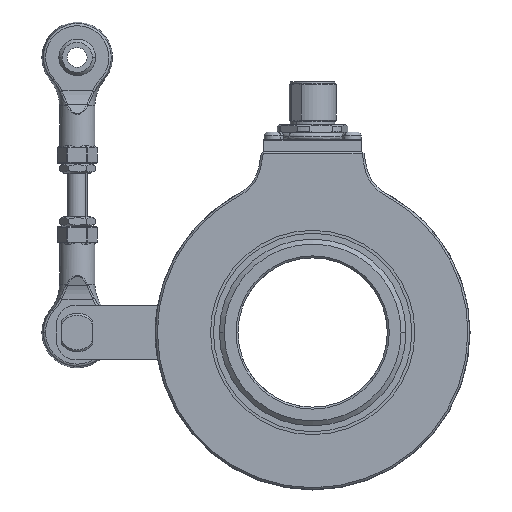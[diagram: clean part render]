
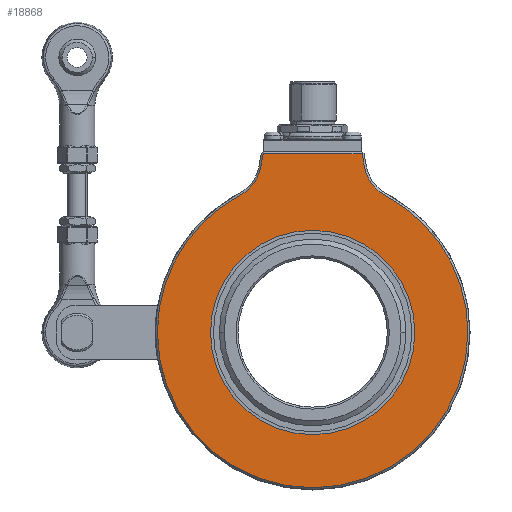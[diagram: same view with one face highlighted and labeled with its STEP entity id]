
A CAD part, left-side view. The second image highlights one B-rep face of the part: STEP entity #18868.
In plain terms, the highlighted planar face has unit normal (-1, 0, 0).
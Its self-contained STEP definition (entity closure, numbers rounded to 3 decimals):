
#5 = ORIENTED_EDGE ( 'NONE', *, *, #11899, .T. ) ;
#154 = AXIS2_PLACEMENT_3D ( 'NONE', #11411, #9774, #15289 ) ;
#248 = EDGE_CURVE ( 'NONE', #14934, #7061, #10986, .T. ) ;
#289 = CARTESIAN_POINT ( 'NONE',  ( -26., 12.58, 45.5 ) ) ;
#579 = DIRECTION ( 'NONE',  ( -1., 0., 0. ) ) ;
#594 = LINE ( 'NONE', #24076, #15639 ) ;
#816 = ORIENTED_EDGE ( 'NONE', *, *, #5890, .T. ) ;
#1000 = ORIENTED_EDGE ( 'NONE', *, *, #1582, .T. ) ;
#1412 = DIRECTION ( 'NONE',  ( 0., -1., 0. ) ) ;
#1582 = EDGE_CURVE ( 'NONE', #16825, #2304, #13455, .T. ) ;
#1631 = FACE_BOUND ( 'NONE', #5254, .T. ) ;
#1652 = CARTESIAN_POINT ( 'NONE',  ( -26., 0., 0. ) ) ;
#1778 = DIRECTION ( 'NONE',  ( -1., 0., 0. ) ) ;
#1907 = VERTEX_POINT ( 'NONE', #22365 ) ;
#2049 = LINE ( 'NONE', #16869, #13098 ) ;
#2178 = DIRECTION ( 'NONE',  ( 1., 0., 0. ) ) ;
#2261 = CIRCLE ( 'NONE', #3875, 26. ) ;
#2264 = DIRECTION ( 'NONE',  ( 0., 1., 0. ) ) ;
#2304 = VERTEX_POINT ( 'NONE', #15120 ) ;
#2642 = LINE ( 'NONE', #11791, #21324 ) ;
#3538 = ORIENTED_EDGE ( 'NONE', *, *, #18473, .T. ) ;
#3608 = ORIENTED_EDGE ( 'NONE', *, *, #17302, .T. ) ;
#3875 = AXIS2_PLACEMENT_3D ( 'NONE', #8881, #11002, #20425 ) ;
#4686 = CARTESIAN_POINT ( 'NONE',  ( -26., -39.5, 0. ) ) ;
#4936 = ORIENTED_EDGE ( 'NONE', *, *, #248, .T. ) ;
#5254 = EDGE_LOOP ( 'NONE', ( #17216, #5 ) ) ;
#5492 = CIRCLE ( 'NONE', #8690, 26. ) ;
#5890 = EDGE_CURVE ( 'NONE', #7061, #17307, #12121, .T. ) ;
#6235 = EDGE_CURVE ( 'NONE', #2304, #20252, #24594, .T. ) ;
#7061 = VERTEX_POINT ( 'NONE', #9273 ) ;
#7367 = CARTESIAN_POINT ( 'NONE',  ( -26., -26., 0. ) ) ;
#7627 = DIRECTION ( 'NONE',  ( 0., -1., 0. ) ) ;
#7766 = CARTESIAN_POINT ( 'NONE',  ( -26., 0., 0. ) ) ;
#8690 = AXIS2_PLACEMENT_3D ( 'NONE', #7766, #17206, #2264 ) ;
#8881 = CARTESIAN_POINT ( 'NONE',  ( -26., 0., 0. ) ) ;
#9258 = VERTEX_POINT ( 'NONE', #21808 ) ;
#9273 = CARTESIAN_POINT ( 'NONE',  ( -26., 18.551, 34.873 ) ) ;
#9730 = AXIS2_PLACEMENT_3D ( 'NONE', #17766, #579, #10371 ) ;
#9774 = DIRECTION ( 'NONE',  ( 1., 0., 0. ) ) ;
#10371 = DIRECTION ( 'NONE',  ( 0., -1., 0. ) ) ;
#10986 = CIRCLE ( 'NONE', #154, 10.5 ) ;
#11002 = DIRECTION ( 'NONE',  ( 1., 0., 0. ) ) ;
#11204 = CARTESIAN_POINT ( 'NONE',  ( -26., 0., 0. ) ) ;
#11411 = CARTESIAN_POINT ( 'NONE',  ( -26., 23.482, 44.143 ) ) ;
#11710 = CARTESIAN_POINT ( 'NONE',  ( -26., -23.482, 44.143 ) ) ;
#11791 = CARTESIAN_POINT ( 'NONE',  ( -26., 40., 45.5 ) ) ;
#11899 = EDGE_CURVE ( 'NONE', #13402, #9258, #5492, .T. ) ;
#12121 = CIRCLE ( 'NONE', #9730, 39.5 ) ;
#13098 = VECTOR ( 'NONE', #20632, 1000. ) ;
#13112 = EDGE_CURVE ( 'NONE', #17307, #16825, #17553, .T. ) ;
#13291 = PLANE ( 'NONE',  #23764 ) ;
#13402 = VERTEX_POINT ( 'NONE', #7367 ) ;
#13455 = CIRCLE ( 'NONE', #21879, 39.5 ) ;
#13552 = DIRECTION ( 'NONE',  ( -1., 0., 0. ) ) ;
#13610 = ORIENTED_EDGE ( 'NONE', *, *, #6235, .T. ) ;
#14875 = CARTESIAN_POINT ( 'NONE',  ( -26., -13.141, 42.32 ) ) ;
#14934 = VERTEX_POINT ( 'NONE', #17125 ) ;
#15120 = CARTESIAN_POINT ( 'NONE',  ( -26., -18.551, 34.873 ) ) ;
#15289 = DIRECTION ( 'NONE',  ( 0., -1., 0. ) ) ;
#15408 = DIRECTION ( 'NONE',  ( -1., 0., 0. ) ) ;
#15599 = DIRECTION ( 'NONE',  ( 0., -1., 0. ) ) ;
#15639 = VECTOR ( 'NONE', #21814, 1000. ) ;
#15937 = AXIS2_PLACEMENT_3D ( 'NONE', #1652, #13552, #22758 ) ;
#16825 = VERTEX_POINT ( 'NONE', #4686 ) ;
#16869 = CARTESIAN_POINT ( 'NONE',  ( -26., 21.188, -3.317 ) ) ;
#17125 = CARTESIAN_POINT ( 'NONE',  ( -26., 13.141, 42.32 ) ) ;
#17206 = DIRECTION ( 'NONE',  ( 1., 0., 0. ) ) ;
#17216 = ORIENTED_EDGE ( 'NONE', *, *, #23164, .T. ) ;
#17302 = EDGE_CURVE ( 'NONE', #20252, #1907, #594, .T. ) ;
#17307 = VERTEX_POINT ( 'NONE', #22061 ) ;
#17553 = CIRCLE ( 'NONE', #15937, 39.5 ) ;
#17766 = CARTESIAN_POINT ( 'NONE',  ( -26., 0., 0. ) ) ;
#18473 = EDGE_CURVE ( 'NONE', #1907, #19050, #2642, .T. ) ;
#18868 = ADVANCED_FACE ( 'NONE', ( #24501, #1631 ), #13291, .T. ) ;
#19050 = VERTEX_POINT ( 'NONE', #289 ) ;
#19524 = ORIENTED_EDGE ( 'NONE', *, *, #13112, .T. ) ;
#19713 = DIRECTION ( 'NONE',  ( 0., 1., 0. ) ) ;
#20252 = VERTEX_POINT ( 'NONE', #14875 ) ;
#20425 = DIRECTION ( 'NONE',  ( 0., 1., 0. ) ) ;
#20632 = DIRECTION ( 'NONE',  ( 0., 0.174, -0.985 ) ) ;
#21324 = VECTOR ( 'NONE', #19713, 1000. ) ;
#21808 = CARTESIAN_POINT ( 'NONE',  ( -26., 26., 0. ) ) ;
#21814 = DIRECTION ( 'NONE',  ( 0., 0.174, 0.985 ) ) ;
#21879 = AXIS2_PLACEMENT_3D ( 'NONE', #11204, #1778, #1412 ) ;
#22061 = CARTESIAN_POINT ( 'NONE',  ( -26., 39.5, 0. ) ) ;
#22174 = AXIS2_PLACEMENT_3D ( 'NONE', #11710, #2178, #15599 ) ;
#22365 = CARTESIAN_POINT ( 'NONE',  ( -26., -12.58, 45.5 ) ) ;
#22741 = ORIENTED_EDGE ( 'NONE', *, *, #23716, .T. ) ;
#22758 = DIRECTION ( 'NONE',  ( 0., -1., 0. ) ) ;
#23109 = EDGE_LOOP ( 'NONE', ( #3608, #3538, #22741, #4936, #816, #19524, #1000, #13610 ) ) ;
#23164 = EDGE_CURVE ( 'NONE', #9258, #13402, #2261, .T. ) ;
#23716 = EDGE_CURVE ( 'NONE', #19050, #14934, #2049, .T. ) ;
#23764 = AXIS2_PLACEMENT_3D ( 'NONE', #24862, #15408, #7627 ) ;
#24076 = CARTESIAN_POINT ( 'NONE',  ( -26., -18.776, 10.364 ) ) ;
#24501 = FACE_OUTER_BOUND ( 'NONE', #23109, .T. ) ;
#24594 = CIRCLE ( 'NONE', #22174, 10.5 ) ;
#24862 = CARTESIAN_POINT ( 'NONE',  ( -26., 40., 0. ) ) ;
